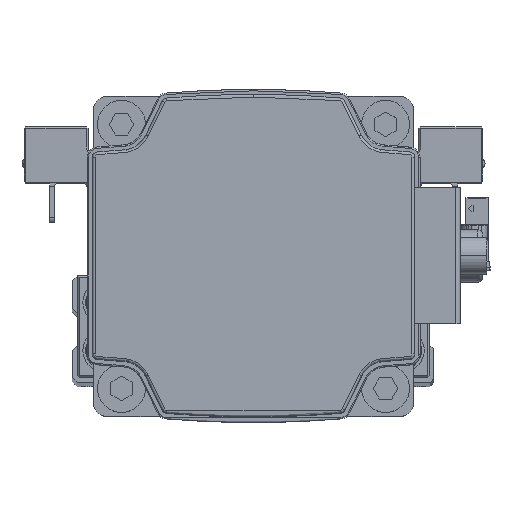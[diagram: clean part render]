
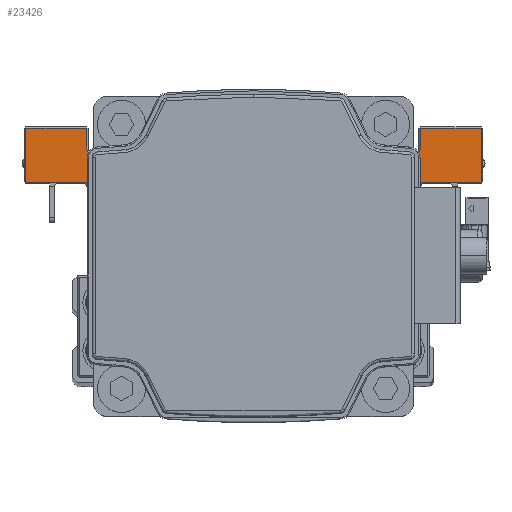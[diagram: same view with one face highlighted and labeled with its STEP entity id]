
A CAD part, top view. The second image highlights one B-rep face of the part: STEP entity #23426.
In plain terms, the highlighted planar face has unit normal (0, 0, 1) as drawn and (1, 0, 0) by its records, which use the part's own axes.
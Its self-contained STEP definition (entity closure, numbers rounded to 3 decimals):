
#7 = EDGE_CURVE ( 'NONE', #30852, #38030, #14240, .T. ) ;
#93 = DIRECTION ( 'NONE',  ( 0., 1., 0. ) ) ;
#126 = CARTESIAN_POINT ( 'NONE',  ( 25.5, 17.7, -15. ) ) ;
#538 = DIRECTION ( 'NONE',  ( 0., 0., 1. ) ) ;
#1055 = DIRECTION ( 'NONE',  ( -1., 0., 0. ) ) ;
#1318 = CARTESIAN_POINT ( 'NONE',  ( 25.5, 7.5, -31.3 ) ) ;
#1531 = VECTOR ( 'NONE', #13567, 1000. ) ;
#1664 = CARTESIAN_POINT ( 'NONE',  ( 25.5, 5.5, 17. ) ) ;
#1673 = VECTOR ( 'NONE', #33158, 1000. ) ;
#1743 = VERTEX_POINT ( 'NONE', #17153 ) ;
#1958 = CARTESIAN_POINT ( 'NONE',  ( 25.5, 14., 31.3 ) ) ;
#2468 = ORIENTED_EDGE ( 'NONE', *, *, #8173, .T. ) ;
#2640 = EDGE_CURVE ( 'NONE', #9140, #6897, #33472, .T. ) ;
#3339 = CARTESIAN_POINT ( 'NONE',  ( 25.5, 7.5, -42.7 ) ) ;
#3550 = PLANE ( 'NONE',  #10485 ) ;
#3588 = CARTESIAN_POINT ( 'NONE',  ( 25.5, 7.5, 42.7 ) ) ;
#3634 = CARTESIAN_POINT ( 'NONE',  ( 25.5, 7.5, 43. ) ) ;
#3710 = CARTESIAN_POINT ( 'NONE',  ( 25.5, -7.5, 15. ) ) ;
#4065 = AXIS2_PLACEMENT_3D ( 'NONE', #10896, #23158, #35414 ) ;
#4195 = CIRCLE ( 'NONE', #26649, 2. ) ;
#4605 = VECTOR ( 'NONE', #20568, 1000. ) ;
#5041 = EDGE_CURVE ( 'NONE', #24407, #39194, #27664, .T. ) ;
#6143 = ORIENTED_EDGE ( 'NONE', *, *, #5041, .T. ) ;
#6647 = DIRECTION ( 'NONE',  ( 0., -1., 0. ) ) ;
#6897 = VERTEX_POINT ( 'NONE', #22969 ) ;
#7407 = VECTOR ( 'NONE', #12381, 1000. ) ;
#7467 = EDGE_CURVE ( 'NONE', #39194, #27500, #8639, .T. ) ;
#8165 = DIRECTION ( 'NONE',  ( -1., 0., 0. ) ) ;
#8173 = EDGE_CURVE ( 'NONE', #9558, #34971, #21406, .T. ) ;
#8314 = CARTESIAN_POINT ( 'NONE',  ( 25.5, 7.5, 43. ) ) ;
#8639 = LINE ( 'NONE', #20909, #1673 ) ;
#9140 = VERTEX_POINT ( 'NONE', #3710 ) ;
#9558 = VERTEX_POINT ( 'NONE', #31730 ) ;
#10188 = AXIS2_PLACEMENT_3D ( 'NONE', #28585, #1055, #13307 ) ;
#10258 = EDGE_CURVE ( 'NONE', #34971, #24407, #15375, .T. ) ;
#10485 = AXIS2_PLACEMENT_3D ( 'NONE', #15811, #28073, #538 ) ;
#10896 = CARTESIAN_POINT ( 'NONE',  ( 25.5, 14., 30. ) ) ;
#10929 = ORIENTED_EDGE ( 'NONE', *, *, #34286, .F. ) ;
#10936 = CARTESIAN_POINT ( 'NONE',  ( 25.5, 17.7, -31.3 ) ) ;
#11530 = LINE ( 'NONE', #23802, #33818 ) ;
#11997 = CIRCLE ( 'NONE', #34463, 2. ) ;
#12381 = DIRECTION ( 'NONE',  ( 0., 0., 1. ) ) ;
#13307 = DIRECTION ( 'NONE',  ( 0., 0., 1. ) ) ;
#13567 = DIRECTION ( 'NONE',  ( 0., -1., 0. ) ) ;
#13847 = VECTOR ( 'NONE', #6647, 1000. ) ;
#13919 = DIRECTION ( 'NONE',  ( -1., 0., 0. ) ) ;
#14240 = LINE ( 'NONE', #26504, #25492 ) ;
#14471 = LINE ( 'NONE', #26728, #27754 ) ;
#14878 = ORIENTED_EDGE ( 'NONE', *, *, #16828, .T. ) ;
#15193 = CARTESIAN_POINT ( 'NONE',  ( 25.5, -7.5, -15. ) ) ;
#15375 = LINE ( 'NONE', #27635, #18343 ) ;
#15604 = DIRECTION ( 'NONE',  ( 0., 1., 0. ) ) ;
#15645 = CARTESIAN_POINT ( 'NONE',  ( 25.5, 7.5, -17. ) ) ;
#15698 = ORIENTED_EDGE ( 'NONE', *, *, #2640, .T. ) ;
#15785 = ORIENTED_EDGE ( 'NONE', *, *, #7467, .T. ) ;
#15811 = CARTESIAN_POINT ( 'NONE',  ( 25.5, 7.5, -15. ) ) ;
#15890 = DIRECTION ( 'NONE',  ( 0., 0., -1. ) ) ;
#16353 = EDGE_CURVE ( 'NONE', #21672, #31553, #31161, .T. ) ;
#16828 = EDGE_CURVE ( 'NONE', #29955, #18925, #21068, .T. ) ;
#17153 = CARTESIAN_POINT ( 'NONE',  ( 25.5, 5.5, 15. ) ) ;
#17821 = VECTOR ( 'NONE', #15890, 1000. ) ;
#18343 = VECTOR ( 'NONE', #93, 1000. ) ;
#18925 = VERTEX_POINT ( 'NONE', #21871 ) ;
#19223 = CARTESIAN_POINT ( 'NONE',  ( 25.5, 17.7, 42.7 ) ) ;
#20419 = DIRECTION ( 'NONE',  ( 0., 0., 1. ) ) ;
#20476 = ORIENTED_EDGE ( 'NONE', *, *, #20644, .T. ) ;
#20568 = DIRECTION ( 'NONE',  ( 0., 0., -1. ) ) ;
#20644 = EDGE_CURVE ( 'NONE', #27500, #25085, #35846, .T. ) ;
#20909 = CARTESIAN_POINT ( 'NONE',  ( 25.5, 7.5, 42.7 ) ) ;
#21068 = CIRCLE ( 'NONE', #10188, 1.3 ) ;
#21365 = VECTOR ( 'NONE', #15604, 1000. ) ;
#21406 = CIRCLE ( 'NONE', #4065, 1.3 ) ;
#21672 = VERTEX_POINT ( 'NONE', #15645 ) ;
#21818 = EDGE_LOOP ( 'NONE', ( #24136, #22368, #22065, #28241, #14878, #29398, #2468, #31390, #6143, #15785, #20476, #31777, #37289, #15698, #10929, #38126 ) ) ;
#21871 = CARTESIAN_POINT ( 'NONE',  ( 25.5, 12.7, -30. ) ) ;
#21904 = LINE ( 'NONE', #34162, #13847 ) ;
#22065 = ORIENTED_EDGE ( 'NONE', *, *, #7, .T. ) ;
#22368 = ORIENTED_EDGE ( 'NONE', *, *, #36662, .T. ) ;
#22969 = CARTESIAN_POINT ( 'NONE',  ( 25.5, -7.5, -15. ) ) ;
#23158 = DIRECTION ( 'NONE',  ( -1., 0., 0. ) ) ;
#23255 = CARTESIAN_POINT ( 'NONE',  ( 25.5, 17.7, 31.3 ) ) ;
#23426 = ADVANCED_FACE ( 'NONE', ( #31084 ), #3550, .F. ) ;
#23802 = CARTESIAN_POINT ( 'NONE',  ( 25.5, 7.5, -15. ) ) ;
#24136 = ORIENTED_EDGE ( 'NONE', *, *, #16353, .T. ) ;
#24407 = VERTEX_POINT ( 'NONE', #23255 ) ;
#25085 = VERTEX_POINT ( 'NONE', #26051 ) ;
#25158 = EDGE_CURVE ( 'NONE', #29589, #21672, #4195, .T. ) ;
#25492 = VECTOR ( 'NONE', #38784, 1000. ) ;
#25740 = EDGE_CURVE ( 'NONE', #1743, #9140, #21904, .T. ) ;
#26051 = CARTESIAN_POINT ( 'NONE',  ( 25.5, 7.5, 17. ) ) ;
#26165 = DIRECTION ( 'NONE',  ( 0., 0., 1. ) ) ;
#26504 = CARTESIAN_POINT ( 'NONE',  ( 25.5, 17.7, -15. ) ) ;
#26649 = AXIS2_PLACEMENT_3D ( 'NONE', #35695, #8165, #20419 ) ;
#26728 = CARTESIAN_POINT ( 'NONE',  ( 25.5, 12.7, 30. ) ) ;
#27457 = DIRECTION ( 'NONE',  ( 0., 0., -1. ) ) ;
#27500 = VERTEX_POINT ( 'NONE', #3588 ) ;
#27635 = CARTESIAN_POINT ( 'NONE',  ( 25.5, 7.5, 31.3 ) ) ;
#27664 = LINE ( 'NONE', #126, #7407 ) ;
#27754 = VECTOR ( 'NONE', #38990, 1000. ) ;
#28073 = DIRECTION ( 'NONE',  ( -1., 0., 0. ) ) ;
#28241 = ORIENTED_EDGE ( 'NONE', *, *, #39251, .T. ) ;
#28419 = VECTOR ( 'NONE', #27457, 1000. ) ;
#28585 = CARTESIAN_POINT ( 'NONE',  ( 25.5, 14., -30. ) ) ;
#28849 = LINE ( 'NONE', #1318, #1531 ) ;
#29398 = ORIENTED_EDGE ( 'NONE', *, *, #30040, .T. ) ;
#29589 = VERTEX_POINT ( 'NONE', #33399 ) ;
#29955 = VERTEX_POINT ( 'NONE', #35565 ) ;
#30040 = EDGE_CURVE ( 'NONE', #18925, #9558, #14471, .T. ) ;
#30852 = VERTEX_POINT ( 'NONE', #35466 ) ;
#30879 = LINE ( 'NONE', #3339, #21365 ) ;
#31084 = FACE_OUTER_BOUND ( 'NONE', #21818, .T. ) ;
#31161 = LINE ( 'NONE', #3634, #17821 ) ;
#31390 = ORIENTED_EDGE ( 'NONE', *, *, #10258, .T. ) ;
#31553 = VERTEX_POINT ( 'NONE', #35140 ) ;
#31730 = CARTESIAN_POINT ( 'NONE',  ( 25.5, 12.7, 30. ) ) ;
#31777 = ORIENTED_EDGE ( 'NONE', *, *, #34567, .T. ) ;
#33158 = DIRECTION ( 'NONE',  ( 0., -1., 0. ) ) ;
#33399 = CARTESIAN_POINT ( 'NONE',  ( 25.5, 5.5, -15. ) ) ;
#33472 = LINE ( 'NONE', #15193, #28419 ) ;
#33818 = VECTOR ( 'NONE', #36054, 1000. ) ;
#34162 = CARTESIAN_POINT ( 'NONE',  ( 25.5, 7.5, 15. ) ) ;
#34286 = EDGE_CURVE ( 'NONE', #29589, #6897, #11530, .T. ) ;
#34463 = AXIS2_PLACEMENT_3D ( 'NONE', #1664, #13919, #26165 ) ;
#34567 = EDGE_CURVE ( 'NONE', #25085, #1743, #11997, .T. ) ;
#34971 = VERTEX_POINT ( 'NONE', #1958 ) ;
#35140 = CARTESIAN_POINT ( 'NONE',  ( 25.5, 7.5, -42.7 ) ) ;
#35414 = DIRECTION ( 'NONE',  ( 0., 0., 1. ) ) ;
#35466 = CARTESIAN_POINT ( 'NONE',  ( 25.5, 17.7, -42.7 ) ) ;
#35565 = CARTESIAN_POINT ( 'NONE',  ( 25.5, 14., -31.3 ) ) ;
#35695 = CARTESIAN_POINT ( 'NONE',  ( 25.5, 5.5, -17. ) ) ;
#35846 = LINE ( 'NONE', #8314, #4605 ) ;
#36054 = DIRECTION ( 'NONE',  ( 0., -1., 0. ) ) ;
#36662 = EDGE_CURVE ( 'NONE', #31553, #30852, #30879, .T. ) ;
#37289 = ORIENTED_EDGE ( 'NONE', *, *, #25740, .T. ) ;
#38030 = VERTEX_POINT ( 'NONE', #10936 ) ;
#38126 = ORIENTED_EDGE ( 'NONE', *, *, #25158, .T. ) ;
#38784 = DIRECTION ( 'NONE',  ( 0., 0., 1. ) ) ;
#38990 = DIRECTION ( 'NONE',  ( 0., 0., 1. ) ) ;
#39194 = VERTEX_POINT ( 'NONE', #19223 ) ;
#39251 = EDGE_CURVE ( 'NONE', #38030, #29955, #28849, .T. ) ;
